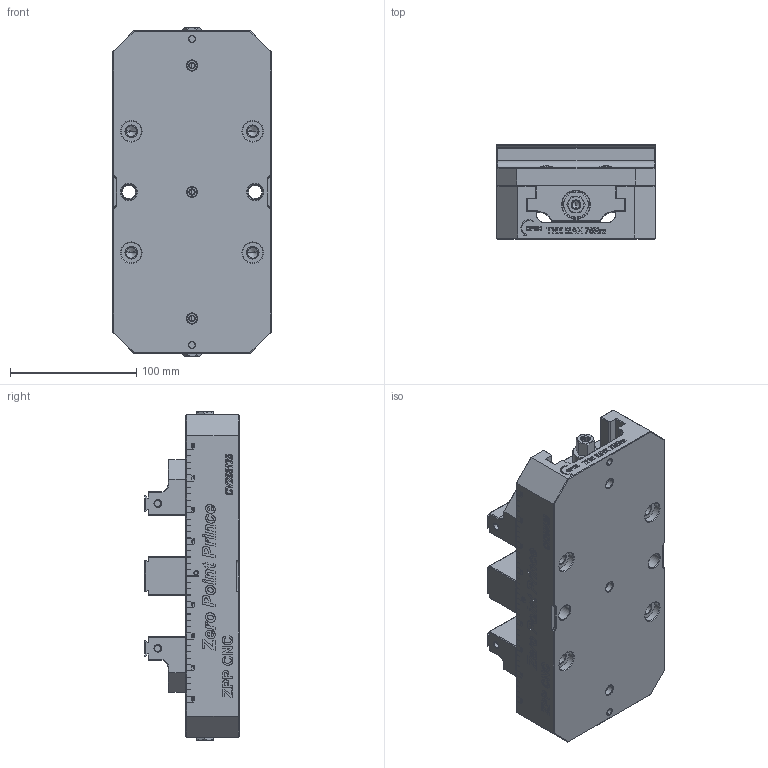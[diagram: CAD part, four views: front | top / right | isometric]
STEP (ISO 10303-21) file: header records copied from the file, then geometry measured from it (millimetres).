
FILE_DESCRIPTION((''),'2;1');
FILE_NAME('CV255125_ASM_ASM','2024-08-14T09:57:12',('XF'),(''),'CREO PARAMETRIC BY PTC INC, 2022073','CREO PARAMETRIC BY PTC INC, 2022073','');
FILE_SCHEMA(('CONFIG_CONTROL_DESIGN'));
Products named in the file (7): CV255125_1_1; PRT0005_1; PRT0008_1; PRT0014_1; CV255125_ASM_1_ASM; PRT0001; CV255125_ASM_ASM
Assembly tree (8 placements, depth 3):
  CV255125_ASM_ASM
    CV255125_ASM_1_ASM
      CV255125_1_1
      PRT0005_1
      PRT0008_1  x2
      PRT0014_1  x2
    PRT0001
Bounding box: 125 x 74.41 x 260 mm (x, y, z)
Volume: 1302679.5 mm3; surface area: 233411.9 mm2
Topology: 7 solids, 28 shells, 10328 faces, 28472 edges, 18974 vertices
Faces by surface type: plane 9172, extrusion 770, cylinder 232, cone 142, bspline 8, torus 4
Entity records: 254868 total; most frequent: CARTESIAN_POINT 54207, ORIENTED_EDGE 44080, DIRECTION 36038, EDGE_CURVE 22072, VECTOR 20074, LINE 19304, VERTEX_POINT 14720, EDGE_LOOP 8444
